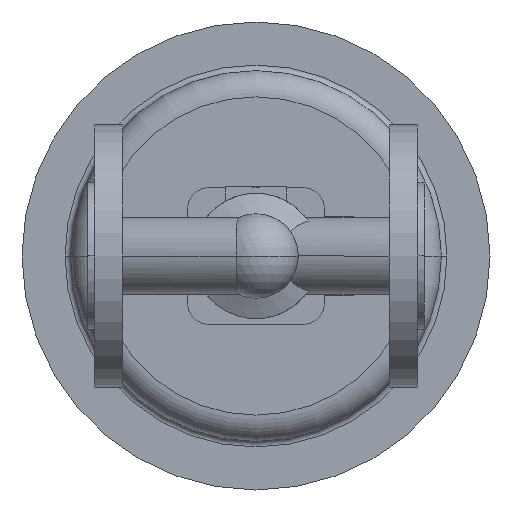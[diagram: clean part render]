
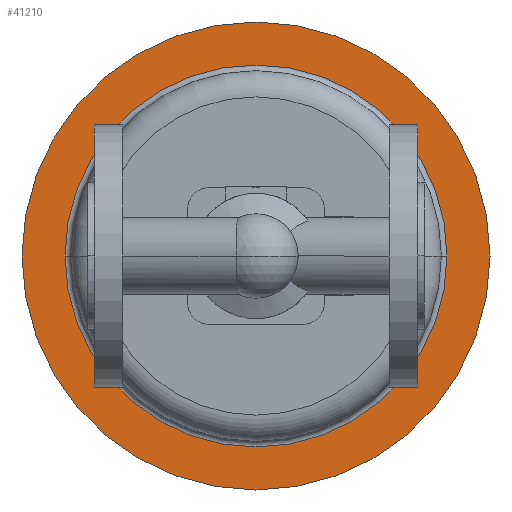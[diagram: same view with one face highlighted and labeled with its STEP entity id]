
A CAD part, front view. The second image highlights one B-rep face of the part: STEP entity #41210.
In plain terms, the highlighted planar face has unit normal (0, -1, 0).
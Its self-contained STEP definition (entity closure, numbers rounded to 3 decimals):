
#32610=CARTESIAN_POINT('',(-35.,383.5,0.));
#32620=VERTEX_POINT('',#32610);
#32780=CARTESIAN_POINT('',(215.,383.5,0.));
#32790=VERTEX_POINT('',#32780);
#32820=CARTESIAN_POINT('',(90.,383.5,0.));
#32830=DIRECTION('',(0.,1.,0.));
#32840=DIRECTION('',(1.,0.,0.));
#32850=AXIS2_PLACEMENT_3D('',#32820,#32830,#32840);
#32860=CIRCLE('',#32850,125.);
#32870=EDGE_CURVE('',#32620,#32790,#32860,.T.);
#32970=CARTESIAN_POINT('',(90.,383.5,0.));
#32980=DIRECTION('',(0.,1.,0.));
#32990=DIRECTION('',(1.,0.,0.));
#33000=AXIS2_PLACEMENT_3D('',#32970,#32980,#32990);
#33010=CIRCLE('',#33000,102.);
#33020=CARTESIAN_POINT('',(90.,383.5,-102.));
#33030=VERTEX_POINT('',#33020);
#33040=CARTESIAN_POINT('',(-12.,383.5,0.));
#33050=VERTEX_POINT('',#33040);
#33060=EDGE_CURVE('',#33030,#33050,#33010,.T.);
#33310=CARTESIAN_POINT('',(192.,383.5,0.));
#33320=VERTEX_POINT('',#33310);
#33350=EDGE_CURVE('',#33320,#33030,#33010,.T.);
#41050=CARTESIAN_POINT('',(203.5,383.5,0.));
#41060=DIRECTION('',(0.,-1.,0.));
#41070=DIRECTION('',(-1.,0.,0.));
#41080=AXIS2_PLACEMENT_3D('',#41050,#41060,#41070);
#41090=PLANE('',#41080);
#41100=EDGE_CURVE('',#32790,#32620,#32860,.T.);
#41110=ORIENTED_EDGE('',*,*,#41100,.F.);
#41120=ORIENTED_EDGE('',*,*,#32870,.F.);
#41130=EDGE_LOOP('',(#41120,#41110));
#41140=FACE_OUTER_BOUND('',#41130,.T.);
#41150=EDGE_CURVE('',#33050,#33320,#33010,.T.);
#41160=ORIENTED_EDGE('',*,*,#41150,.T.);
#41170=ORIENTED_EDGE('',*,*,#33060,.T.);
#41180=ORIENTED_EDGE('',*,*,#33350,.T.);
#41190=EDGE_LOOP('',(#41180,#41170,#41160));
#41200=FACE_BOUND('',#41190,.T.);
#41210=ADVANCED_FACE('',(#41140,#41200),#41090,.T.);
